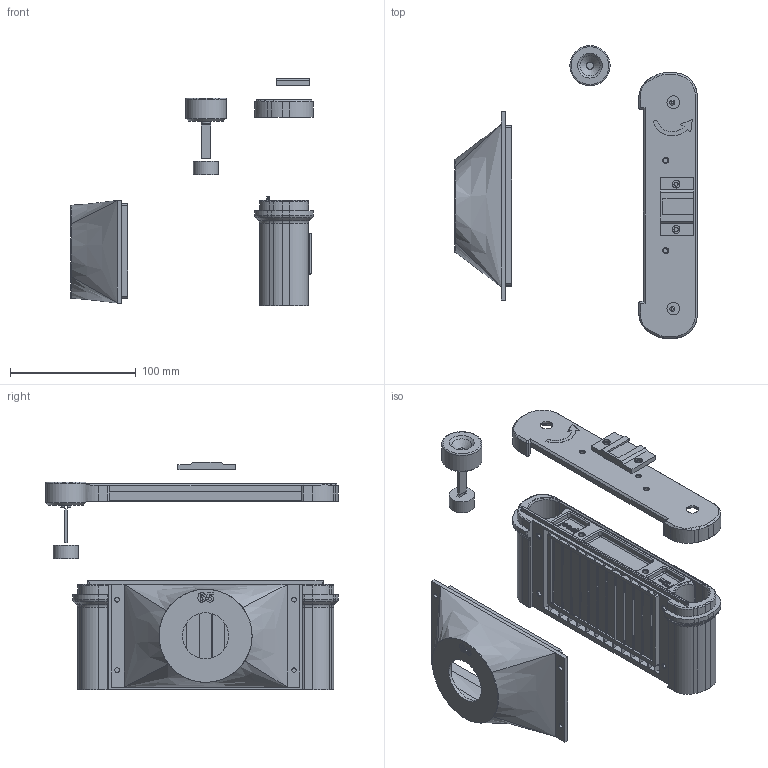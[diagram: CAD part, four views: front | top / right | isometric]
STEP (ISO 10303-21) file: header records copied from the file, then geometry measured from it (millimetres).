
FILE_DESCRIPTION(/* description */ (''),/* implementation_level */ '2;1');
FILE_NAME(/* name */ 'C:/Users/mcjor/3D Objects/6x17 Camera/6x12/experimental 6x12.stp',/* time_stamp */ '2022-01-06T02:03:35+01:00',/* author */ (''),/* organization */ (''),/* preprocessor_version */ 'ST-DEVELOPER v15.2',/* originating_system */ 'Autodesk Translator Framework v2.0.0.5431',/* authorisation */ '');
FILE_SCHEMA (('AUTOMOTIVE_DESIGN { 1 0 10303 214 3 1 1 }'));
Products named in the file (1): 6x12
Bounding box: 192.73 x 232.56 x 180.51 mm (x, y, z)
Volume: 414038.3 mm3; surface area: 266470.9 mm2
Topology: 40 solids, 40 shells, 2624 faces, 5871 edges, 3378 vertices
Faces by surface type: plane 2121, bspline 275, cylinder 134, cone 63, torus 31
Full cylindrical faces by diameter (mm): 3.3 x4, 3.439 x2, 3.8 x2, 3.839 x6, 4 x2, 4.039 x2, 6.2 x2, 10 x3, 16 x1, 20 x1, 21.2 x2, 27.15 x2, 32 x1, 36.6 x1, 74 x1
Entity records: 75607 total; most frequent: CARTESIAN_POINT 19902, ORIENTED_EDGE 11620, DIRECTION 10532, EDGE_CURVE 5810, LINE 4590, VECTOR 4590, VERTEX_POINT 3371, AXIS2_PLACEMENT_3D 2971
